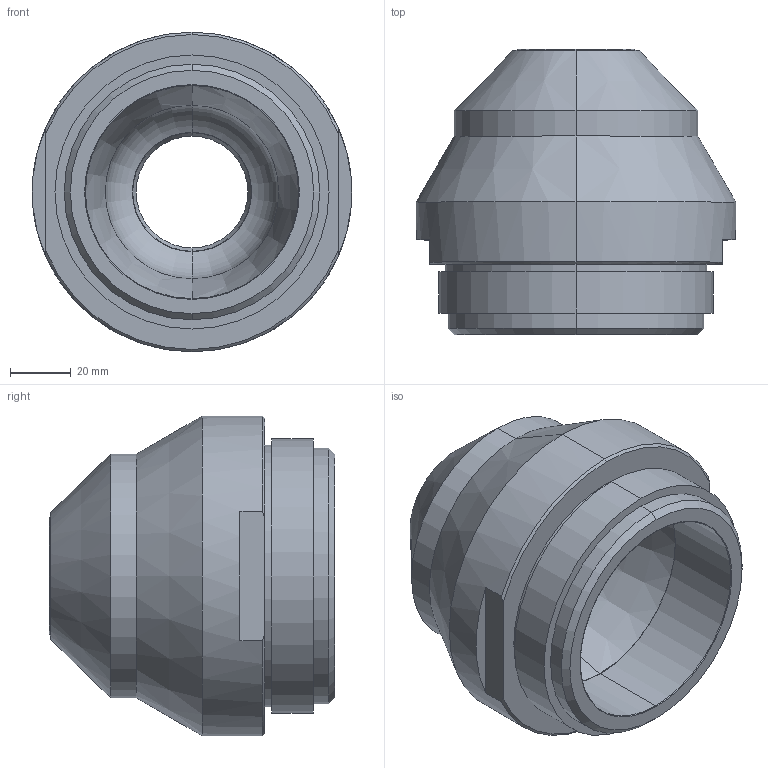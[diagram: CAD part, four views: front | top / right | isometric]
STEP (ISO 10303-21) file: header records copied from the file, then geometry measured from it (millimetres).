
FILE_DESCRIPTION (( 'STEP AP214' ), '1' );
FILE_NAME ('8062026.03 - Ñåäëî êëàïàíà COMBI 130.step', '2026-06-08T14:06:52', ( '' ), ( '' ), 'SwSTEP 2.0', 'SolidWorks 2023', '' );
FILE_SCHEMA (( 'AUTOMOTIVE_DESIGN' ));
Length unit declared in the file: millimetre
Products named in the file (1): 8062026.03 - Седло клапана COMBI 130
Bounding box: 105 x 93.7 x 105 mm (x, y, z)
Volume: 284148.6 mm3; surface area: 52155.4 mm2
Topology: 1 solids, 1 shells, 48 faces, 102 edges, 59 vertices
Faces by surface type: cylinder 14, cone 13, torus 12, plane 9
Entity records: 1348 total; most frequent: DIRECTION 261, CARTESIAN_POINT 222, ORIENTED_EDGE 204, AXIS2_PLACEMENT_3D 114, EDGE_CURVE 102, CIRCLE 65, VERTEX_POINT 59, EDGE_LOOP 53
